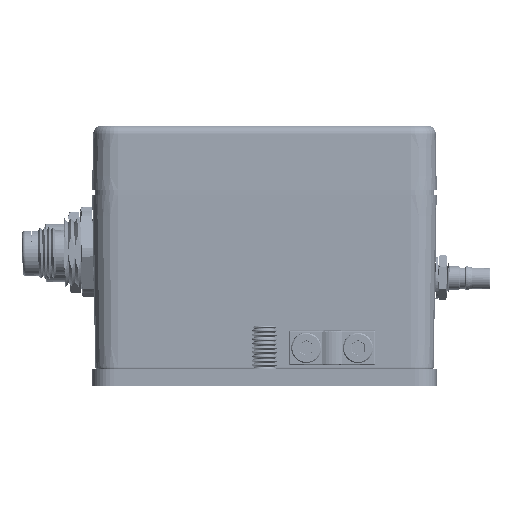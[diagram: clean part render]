
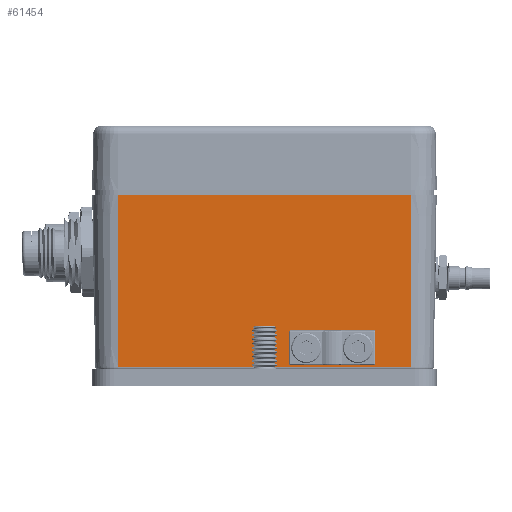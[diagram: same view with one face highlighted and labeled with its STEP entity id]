
A CAD part, left-side view. The second image highlights one B-rep face of the part: STEP entity #61454.
In plain terms, the highlighted planar face has unit normal (-1, 0, -0.018).
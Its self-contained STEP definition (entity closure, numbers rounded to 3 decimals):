
#745=FACE_BOUND('',#10180,.T.);
#746=FACE_BOUND('',#10181,.T.);
#3498=PLANE('',#65879);
#6664=FACE_OUTER_BOUND('',#10179,.T.);
#10179=EDGE_LOOP('',(#50731,#50732,#50733,#50734));
#10180=EDGE_LOOP('',(#50735,#50736));
#10181=EDGE_LOOP('',(#50737,#50738));
#15518=LINE('',#100966,#20893);
#15519=LINE('',#100969,#20894);
#15520=LINE('',#100973,#20895);
#15521=LINE('',#100974,#20896);
#20893=VECTOR('',#78342,1.);
#20894=VECTOR('',#78345,1.);
#20895=VECTOR('',#78350,1.);
#20896=VECTOR('',#78351,1.);
#23398=CIRCLE('',#64575,1.873);
#23421=CIRCLE('',#64627,1.873);
#23433=CIRCLE('',#64648,1.873);
#23451=CIRCLE('',#64695,1.873);
#26455=VERTEX_POINT('',#94210);
#26456=VERTEX_POINT('',#94211);
#26502=VERTEX_POINT('',#94374);
#26503=VERTEX_POINT('',#94375);
#28555=VERTEX_POINT('',#100878);
#28581=VERTEX_POINT('',#100961);
#28582=VERTEX_POINT('',#100968);
#28583=VERTEX_POINT('',#100972);
#33239=EDGE_CURVE('',#26455,#26456,#23398,.T.);
#33302=EDGE_CURVE('',#26456,#26455,#23421,.T.);
#33318=EDGE_CURVE('',#26502,#26503,#23433,.T.);
#33376=EDGE_CURVE('',#26503,#26502,#23451,.T.);
#36438=EDGE_CURVE('',#28555,#28581,#15518,.T.);
#36439=EDGE_CURVE('',#28582,#28581,#15519,.T.);
#36441=EDGE_CURVE('',#28583,#28555,#15520,.T.);
#36442=EDGE_CURVE('',#28583,#28582,#15521,.T.);
#50731=ORIENTED_EDGE('',*,*,#36438,.F.);
#50732=ORIENTED_EDGE('',*,*,#36441,.F.);
#50733=ORIENTED_EDGE('',*,*,#36442,.T.);
#50734=ORIENTED_EDGE('',*,*,#36439,.T.);
#50735=ORIENTED_EDGE('',*,*,#33239,.T.);
#50736=ORIENTED_EDGE('',*,*,#33302,.T.);
#50737=ORIENTED_EDGE('',*,*,#33318,.T.);
#50738=ORIENTED_EDGE('',*,*,#33376,.T.);
#61454=ADVANCED_FACE('',(#6664,#745,#746),#3498,.T.);
#64575=AXIS2_PLACEMENT_3D('',#94212,#72755,#72756);
#64627=AXIS2_PLACEMENT_3D('',#94338,#72899,#72900);
#64648=AXIS2_PLACEMENT_3D('',#94376,#72945,#72946);
#64695=AXIS2_PLACEMENT_3D('',#94492,#73079,#73080);
#65879=AXIS2_PLACEMENT_3D('',#100971,#78348,#78349);
#72755=DIRECTION('center_axis',(1.,0.,
0.017));
#72756=DIRECTION('ref_axis',(0.,-1.,0.));
#72899=DIRECTION('center_axis',(1.,0.,
0.017));
#72900=DIRECTION('ref_axis',(0.,-1.,0.));
#72945=DIRECTION('center_axis',(1.,0.,
0.017));
#72946=DIRECTION('ref_axis',(0.,1.,0.));
#73079=DIRECTION('center_axis',(1.,0.,
0.017));
#73080=DIRECTION('ref_axis',(0.,1.,0.));
#78342=DIRECTION('',(0.,1.,0.));
#78345=DIRECTION('',(0.017,0.,-1.));
#78348=DIRECTION('center_axis',(-1.,0.,
-0.017));
#78349=DIRECTION('ref_axis',(0.,1.,0.));
#78350=DIRECTION('',(0.017,0.,-1.));
#78351=DIRECTION('',(0.,1.,0.));
#94210=CARTESIAN_POINT('',(-276.863,-118.596,-36.519));
#94211=CARTESIAN_POINT('',(-276.863,-114.85,-36.519));
#94212=CARTESIAN_POINT('Origin',(-276.863,-116.723,-36.519));
#94338=CARTESIAN_POINT('Origin',(-276.863,-116.723,-36.519));
#94374=CARTESIAN_POINT('',(-276.863,-106.596,-36.519));
#94375=CARTESIAN_POINT('',(-276.863,-102.85,-36.519));
#94376=CARTESIAN_POINT('Origin',(-276.863,-104.723,-36.519));
#94492=CARTESIAN_POINT('Origin',(-276.863,-104.723,-36.519));
#100878=CARTESIAN_POINT('',(-276.784,-129.,-41.017));
#100961=CARTESIAN_POINT('',(-276.784,-61.,-41.017));
#100966=CARTESIAN_POINT('',(-276.784,-95.,-41.017));
#100968=CARTESIAN_POINT('',(-277.483,-61.,-1.));
#100969=CARTESIAN_POINT('',(-277.5,-61.,0.));
#100971=CARTESIAN_POINT('Origin',(-277.5,-95.,0.));
#100972=CARTESIAN_POINT('',(-277.483,-129.,-1.));
#100973=CARTESIAN_POINT('',(-277.5,-129.,0.));
#100974=CARTESIAN_POINT('',(-277.483,-95.,-1.));
